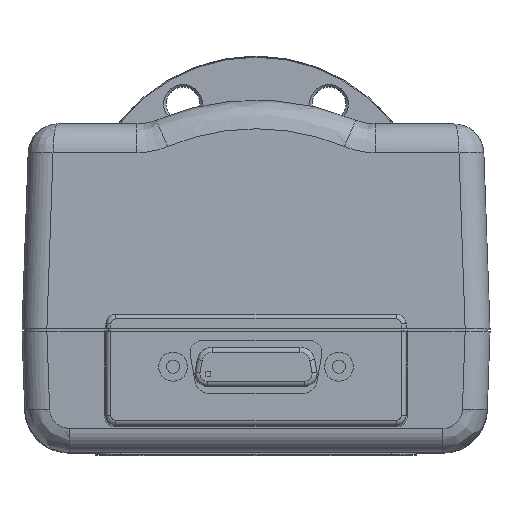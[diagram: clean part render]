
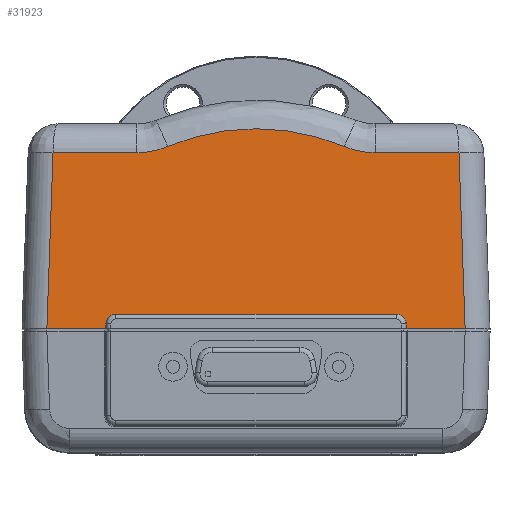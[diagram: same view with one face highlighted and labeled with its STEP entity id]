
A CAD part, top view. The second image highlights one B-rep face of the part: STEP entity #31923.
In plain terms, the highlighted planar face has unit normal (0, 0.035, 0.999) as drawn and (0, 0.999, -0.035) by its records, which use the part's own axes.
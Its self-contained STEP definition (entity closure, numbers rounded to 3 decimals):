
#3123=PLANE('',#34038);
#4104=FACE_OUTER_BOUND('',#5996,.T.);
#5996=EDGE_LOOP('',(#22614,#22615,#22616,#22617,#22618,#22619,#22620,#22621,
#22622,#22623,#22624,#22625,#22626,#22627));
#8042=LINE('',#42157,#11005);
#8046=LINE('',#42166,#11009);
#8048=LINE('',#42173,#11011);
#8052=LINE('',#42193,#11015);
#8055=LINE('',#42197,#11018);
#8070=LINE('',#42494,#11033);
#8071=LINE('',#42591,#11034);
#8076=LINE('',#42604,#11039);
#8079=LINE('',#42610,#11042);
#11005=VECTOR('',#35897,10.);
#11009=VECTOR('',#35907,10.);
#11011=VECTOR('',#35915,10.);
#11015=VECTOR('',#35931,10.);
#11018=VECTOR('',#35936,10.);
#11033=VECTOR('',#36041,10.);
#11034=VECTOR('',#36058,10.);
#11039=VECTOR('',#36073,10.);
#11042=VECTOR('',#36082,10.);
#13809=ELLIPSE('',#33965,2.001,2.);
#13810=ELLIPSE('',#33968,2.001,2.);
#13826=ELLIPSE('',#34023,16.01,16.);
#13827=ELLIPSE('',#34025,46.028,46.);
#13828=ELLIPSE('',#34027,16.01,16.);
#14042=VERTEX_POINT('',#42154);
#14043=VERTEX_POINT('',#42156);
#14044=VERTEX_POINT('',#42160);
#14045=VERTEX_POINT('',#42164);
#14046=VERTEX_POINT('',#42168);
#14047=VERTEX_POINT('',#42172);
#14056=VERTEX_POINT('',#42190);
#14057=VERTEX_POINT('',#42192);
#14074=VERTEX_POINT('',#42392);
#14076=VERTEX_POINT('',#42439);
#14088=VERTEX_POINT('',#42492);
#14089=VERTEX_POINT('',#42519);
#14090=VERTEX_POINT('',#42558);
#14092=VERTEX_POINT('',#42586);
#17344=EDGE_CURVE('',#14043,#14042,#8042,.T.);
#17347=EDGE_CURVE('',#14044,#14042,#13809,.F.);
#17349=EDGE_CURVE('',#14044,#14045,#8046,.T.);
#17351=EDGE_CURVE('',#14046,#14045,#13810,.F.);
#17352=EDGE_CURVE('',#14043,#14047,#8048,.T.);
#17362=EDGE_CURVE('',#14056,#14057,#8052,.T.);
#17365=EDGE_CURVE('',#14046,#14057,#8055,.T.);
#17414=EDGE_CURVE('',#14088,#14076,#8070,.T.);
#17416=EDGE_CURVE('',#14089,#14088,#13826,.T.);
#17418=EDGE_CURVE('',#14090,#14089,#13827,.T.);
#17420=EDGE_CURVE('',#14092,#14090,#13828,.T.);
#17422=EDGE_CURVE('',#14074,#14092,#8071,.T.);
#17428=EDGE_CURVE('',#14076,#14056,#8076,.T.);
#17431=EDGE_CURVE('',#14047,#14074,#8079,.T.);
#22614=ORIENTED_EDGE('',*,*,#17365,.T.);
#22615=ORIENTED_EDGE('',*,*,#17362,.F.);
#22616=ORIENTED_EDGE('',*,*,#17428,.F.);
#22617=ORIENTED_EDGE('',*,*,#17414,.F.);
#22618=ORIENTED_EDGE('',*,*,#17416,.F.);
#22619=ORIENTED_EDGE('',*,*,#17418,.F.);
#22620=ORIENTED_EDGE('',*,*,#17420,.F.);
#22621=ORIENTED_EDGE('',*,*,#17422,.F.);
#22622=ORIENTED_EDGE('',*,*,#17431,.F.);
#22623=ORIENTED_EDGE('',*,*,#17352,.F.);
#22624=ORIENTED_EDGE('',*,*,#17344,.T.);
#22625=ORIENTED_EDGE('',*,*,#17347,.F.);
#22626=ORIENTED_EDGE('',*,*,#17349,.T.);
#22627=ORIENTED_EDGE('',*,*,#17351,.F.);
#31923=ADVANCED_FACE('',(#4104),#3123,.T.);
#33965=AXIS2_PLACEMENT_3D('',#42162,#35902,#35903);
#33968=AXIS2_PLACEMENT_3D('',#42170,#35911,#35912);
#34023=AXIS2_PLACEMENT_3D('',#42521,#36044,#36045);
#34025=AXIS2_PLACEMENT_3D('',#42560,#36048,#36049);
#34027=AXIS2_PLACEMENT_3D('',#42588,#36052,#36053);
#34038=AXIS2_PLACEMENT_3D('',#42611,#36083,#36084);
#35897=DIRECTION('',(0.,-0.035,-0.999));
#35902=DIRECTION('center_axis',(0.,-0.999,0.035));
#35903=DIRECTION('ref_axis',(0.,-0.035,-0.999));
#35907=DIRECTION('',(1.,0.,0.));
#35911=DIRECTION('center_axis',(0.,-0.999,0.035));
#35912=DIRECTION('ref_axis',(0.,-0.035,-0.999));
#35915=DIRECTION('',(-1.,0.,0.));
#35931=DIRECTION('',(-1.,0.,0.));
#35936=DIRECTION('',(0.,0.035,0.999));
#36041=DIRECTION('',(1.,0.,0.));
#36044=DIRECTION('center_axis',(0.,0.999,-0.035));
#36045=DIRECTION('ref_axis',(0.,0.035,0.999));
#36048=DIRECTION('center_axis',(0.,-0.999,0.035));
#36049=DIRECTION('ref_axis',(0.,-0.035,-0.999));
#36052=DIRECTION('center_axis',(0.,0.999,-0.035));
#36053=DIRECTION('ref_axis',(0.,0.035,0.999));
#36058=DIRECTION('',(1.,0.,0.));
#36073=DIRECTION('',(0.035,0.035,0.999));
#36082=DIRECTION('',(0.035,-0.035,-0.999));
#36083=DIRECTION('center_axis',(0.,0.999,-0.035));
#36084=DIRECTION('ref_axis',(1.,0.,0.));
#42154=CARTESIAN_POINT('',(-30.15,158.465,19.047));
#42156=CARTESIAN_POINT('',(-30.15,158.5,20.047));
#42157=CARTESIAN_POINT('',(-30.15,158.501,20.066));
#42160=CARTESIAN_POINT('',(-28.15,158.395,17.047));
#42162=CARTESIAN_POINT('Origin',(-28.15,158.465,19.047));
#42164=CARTESIAN_POINT('',(28.15,158.395,17.047));
#42166=CARTESIAN_POINT('',(8.425,158.395,17.047));
#42168=CARTESIAN_POINT('',(30.15,158.465,19.047));
#42170=CARTESIAN_POINT('Origin',(28.15,158.465,19.047));
#42172=CARTESIAN_POINT('',(-42.003,158.5,20.047));
#42173=CARTESIAN_POINT('',(47.,158.5,20.047));
#42190=CARTESIAN_POINT('',(42.003,158.5,20.047));
#42192=CARTESIAN_POINT('',(30.15,158.5,20.047));
#42193=CARTESIAN_POINT('',(47.,158.5,20.047));
#42197=CARTESIAN_POINT('',(30.15,158.448,18.568));
#42392=CARTESIAN_POINT('',(-40.767,157.263,-15.363));
#42439=CARTESIAN_POINT('',(40.767,157.263,-15.363));
#42492=CARTESIAN_POINT('',(23.928,157.263,-15.363));
#42494=CARTESIAN_POINT('',(23.5,157.263,-15.363));
#42519=CARTESIAN_POINT('',(17.755,157.22,-16.602));
#42521=CARTESIAN_POINT('Origin',(23.928,156.705,-31.363));
#42558=CARTESIAN_POINT('',(-17.739,157.22,-16.602));
#42560=CARTESIAN_POINT('Origin',(0.008,158.702,25.837));
#42586=CARTESIAN_POINT('',(-23.912,157.263,-15.363));
#42588=CARTESIAN_POINT('Origin',(-23.912,156.705,-31.363));
#42591=CARTESIAN_POINT('',(23.5,157.263,-15.363));
#42604=CARTESIAN_POINT('',(41.948,158.445,18.465));
#42610=CARTESIAN_POINT('',(-41.952,158.449,18.583));
#42611=CARTESIAN_POINT('Origin',(47.,158.5,20.047));
